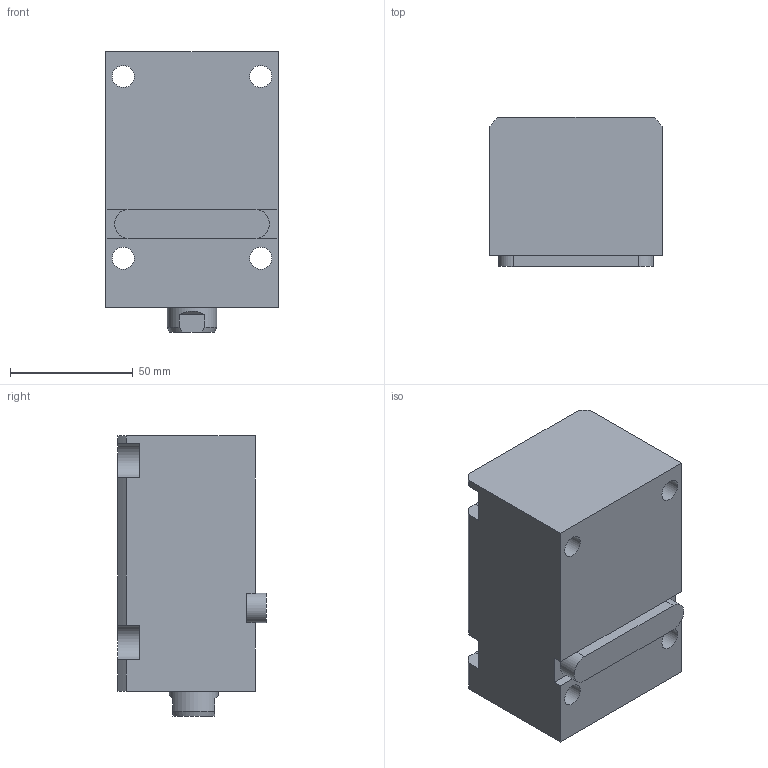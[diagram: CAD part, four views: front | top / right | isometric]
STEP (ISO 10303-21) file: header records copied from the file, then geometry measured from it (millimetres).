
FILE_DESCRIPTION(/* description */ (''),/* implementation_level */ '2;1');
FILE_NAME(/* name */ 'CHTB-LA32-50N.stp',/* time_stamp */ '2022-04-29T16:04:59+08:00',/* author */ (''),/* organization */ (''),/* preprocessor_version */ 'ST-DEVELOPER v16.7',/* originating_system */ 'SIEMENS PLM Software NX 12.0',/* authorisation */ '');
FILE_SCHEMA (('AUTOMOTIVE_DESIGN { 1 0 10303 214 3 1 1 1 }'));
Length unit declared in the file: millimetre
Products named in the file (1): CHTB-LA32-50N
Bounding box: 70 x 60.5 x 114 mm (x, y, z)
Volume: 362685.4 mm3; surface area: 69630.5 mm2
Topology: 3 solids, 3 shells, 427 faces, 1188 edges, 802 vertices
Faces by surface type: plane 276, extrusion 78, cylinder 39, cone 12, torus 12, bspline 10
Full cylindrical faces by diameter (mm): 3 x2, 4 x2, 9 x4, 10.5 x1, 10.7 x2, 20 x2, 24 x1, 24.5 x1, 26 x1, 32 x4, 40 x1
Entity records: 20693 total; most frequent: CARTESIAN_POINT 8227, ORIENTED_EDGE 2266, DIRECTION 1735, EDGE_CURVE 1133, VECTOR 863, VERTEX_POINT 793, LINE 785, EDGE_LOOP 519
